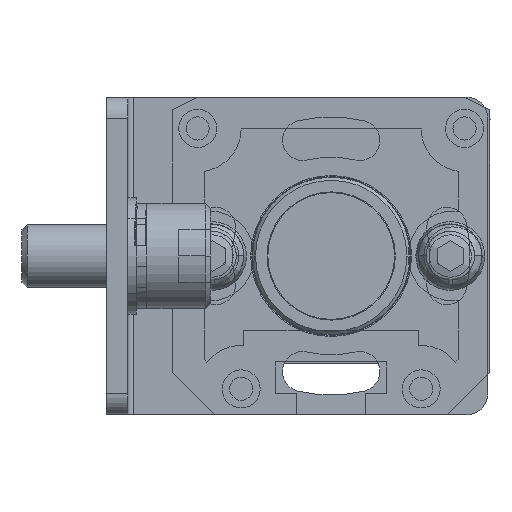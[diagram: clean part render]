
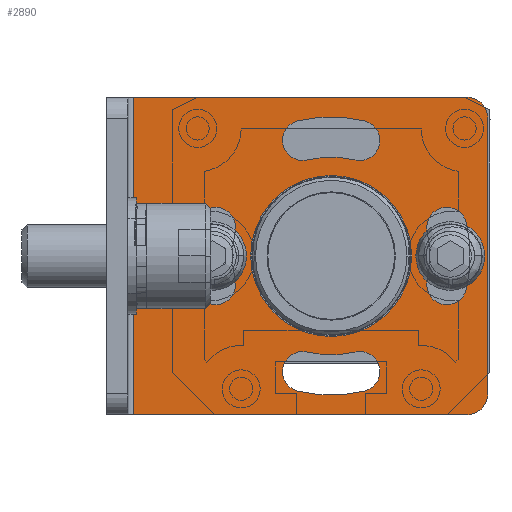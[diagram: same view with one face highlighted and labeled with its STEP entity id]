
A CAD part, front view. The second image highlights one B-rep face of the part: STEP entity #2890.
In plain terms, the highlighted planar face has unit normal (0, -1, 0).
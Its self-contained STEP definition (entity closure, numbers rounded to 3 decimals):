
#692=LINE('',#40684,#1452);
#697=LINE('',#40696,#1457);
#703=LINE('',#40712,#1463);
#707=LINE('',#40736,#1467);
#1452=VECTOR('',#13263,1.);
#1457=VECTOR('',#13272,1.);
#1463=VECTOR('',#13290,1.);
#1467=VECTOR('',#13320,1.);
#1962=PLANE('',#11082);
#2299=FACE_BOUND('',#4309,.T.);
#2300=FACE_BOUND('',#4310,.T.);
#2301=FACE_BOUND('',#4311,.T.);
#2302=FACE_BOUND('',#4312,.T.);
#2303=FACE_BOUND('',#4313,.T.);
#2304=FACE_BOUND('',#4314,.T.);
#2890=ADVANCED_FACE('',(#2299,#2300,#2301,#2302,#2303,#2304),#1962,.T.);
#4309=EDGE_LOOP('',(#6781,#6782,#6783,#6784));
#4310=EDGE_LOOP('',(#6785,#6786,#6787,#6788));
#4311=EDGE_LOOP('',(#6789,#6790,#6791,#6792));
#4312=EDGE_LOOP('',(#6793));
#4313=EDGE_LOOP('',(#6794,#6795,#6796,#6797));
#4314=EDGE_LOOP('',(#6798,#6799,#6800,#6801,#6802,#6803));
#6781=ORIENTED_EDGE('',*,*,#9603,.T.);
#6782=ORIENTED_EDGE('',*,*,#9604,.T.);
#6783=ORIENTED_EDGE('',*,*,#9542,.T.);
#6784=ORIENTED_EDGE('',*,*,#9605,.T.);
#6785=ORIENTED_EDGE('',*,*,#9606,.T.);
#6786=ORIENTED_EDGE('',*,*,#9546,.T.);
#6787=ORIENTED_EDGE('',*,*,#9607,.T.);
#6788=ORIENTED_EDGE('',*,*,#9550,.T.);
#6789=ORIENTED_EDGE('',*,*,#9608,.T.);
#6790=ORIENTED_EDGE('',*,*,#9554,.T.);
#6791=ORIENTED_EDGE('',*,*,#9609,.T.);
#6792=ORIENTED_EDGE('',*,*,#9558,.T.);
#6793=ORIENTED_EDGE('',*,*,#9563,.T.);
#6794=ORIENTED_EDGE('',*,*,#9610,.T.);
#6795=ORIENTED_EDGE('',*,*,#9611,.T.);
#6796=ORIENTED_EDGE('',*,*,#9612,.T.);
#6797=ORIENTED_EDGE('',*,*,#9564,.T.);
#6798=ORIENTED_EDGE('',*,*,#9613,.T.);
#6799=ORIENTED_EDGE('',*,*,#9614,.T.);
#6800=ORIENTED_EDGE('',*,*,#9598,.F.);
#6801=ORIENTED_EDGE('',*,*,#9584,.T.);
#6802=ORIENTED_EDGE('',*,*,#9590,.F.);
#6803=ORIENTED_EDGE('',*,*,#9615,.T.);
#8262=VERTEX_POINT('',#40594);
#8263=VERTEX_POINT('',#40595);
#8266=VERTEX_POINT('',#40603);
#8267=VERTEX_POINT('',#40604);
#8270=VERTEX_POINT('',#40612);
#8271=VERTEX_POINT('',#40613);
#8274=VERTEX_POINT('',#40621);
#8275=VERTEX_POINT('',#40622);
#8278=VERTEX_POINT('',#40630);
#8279=VERTEX_POINT('',#40631);
#8283=VERTEX_POINT('',#40641);
#8284=VERTEX_POINT('',#40644);
#8285=VERTEX_POINT('',#40645);
#8298=VERTEX_POINT('',#40681);
#8299=VERTEX_POINT('',#40683);
#8304=VERTEX_POINT('',#40695);
#8309=VERTEX_POINT('',#40713);
#8312=VERTEX_POINT('',#40723);
#8313=VERTEX_POINT('',#40724);
#8314=VERTEX_POINT('',#40732);
#8315=VERTEX_POINT('',#40734);
#8316=VERTEX_POINT('',#40737);
#8317=VERTEX_POINT('',#40738);
#9542=EDGE_CURVE('',#8262,#8263,#10244,.T.);
#9546=EDGE_CURVE('',#8266,#8267,#10246,.T.);
#9550=EDGE_CURVE('',#8270,#8271,#10248,.T.);
#9554=EDGE_CURVE('',#8274,#8275,#10250,.T.);
#9558=EDGE_CURVE('',#8278,#8279,#10252,.T.);
#9563=EDGE_CURVE('',#8283,#8283,#10255,.T.);
#9564=EDGE_CURVE('',#8284,#8285,#10256,.T.);
#9584=EDGE_CURVE('',#8298,#8299,#692,.T.);
#9590=EDGE_CURVE('',#8304,#8299,#697,.T.);
#9598=EDGE_CURVE('',#8298,#8309,#703,.T.);
#9603=EDGE_CURVE('',#8312,#8313,#10268,.T.);
#9604=EDGE_CURVE('',#8313,#8262,#10269,.T.);
#9605=EDGE_CURVE('',#8263,#8312,#10270,.T.);
#9606=EDGE_CURVE('',#8271,#8266,#10271,.T.);
#9607=EDGE_CURVE('',#8267,#8270,#10272,.T.);
#9608=EDGE_CURVE('',#8279,#8274,#10273,.T.);
#9609=EDGE_CURVE('',#8275,#8278,#10274,.T.);
#9610=EDGE_CURVE('',#8285,#8314,#10275,.T.);
#9611=EDGE_CURVE('',#8314,#8315,#10276,.T.);
#9612=EDGE_CURVE('',#8315,#8284,#10277,.T.);
#9613=EDGE_CURVE('',#8316,#8317,#707,.T.);
#9614=EDGE_CURVE('',#8317,#8309,#10278,.T.);
#9615=EDGE_CURVE('',#8304,#8316,#10279,.T.);
#10244=CIRCLE('',#11028,1.9);
#10246=CIRCLE('',#11031,13.15);
#10248=CIRCLE('',#11034,9.35);
#10250=CIRCLE('',#11037,1.9);
#10252=CIRCLE('',#11040,1.9);
#10255=CIRCLE('',#11044,7.6);
#10256=CIRCLE('',#11046,1.9);
#10268=CIRCLE('',#11070,1.9);
#10269=CIRCLE('',#11071,13.15);
#10270=CIRCLE('',#11072,9.35);
#10271=CIRCLE('',#11073,1.9);
#10272=CIRCLE('',#11074,1.9);
#10273=CIRCLE('',#11075,13.15);
#10274=CIRCLE('',#11076,9.35);
#10275=CIRCLE('',#11077,13.15);
#10276=CIRCLE('',#11078,1.9);
#10277=CIRCLE('',#11079,9.35);
#10278=CIRCLE('',#11080,2.);
#10279=CIRCLE('',#11081,2.);
#11028=AXIS2_PLACEMENT_3D('',#40593,#13179,#13180);
#11031=AXIS2_PLACEMENT_3D('',#40602,#13187,#13188);
#11034=AXIS2_PLACEMENT_3D('',#40611,#13195,#13196);
#11037=AXIS2_PLACEMENT_3D('',#40620,#13203,#13204);
#11040=AXIS2_PLACEMENT_3D('',#40629,#13211,#13212);
#11044=AXIS2_PLACEMENT_3D('',#40640,#13221,#13222);
#11046=AXIS2_PLACEMENT_3D('',#40643,#13225,#13226);
#11070=AXIS2_PLACEMENT_3D('',#40722,#13300,#13301);
#11071=AXIS2_PLACEMENT_3D('',#40725,#13302,#13303);
#11072=AXIS2_PLACEMENT_3D('',#40726,#13304,#13305);
#11073=AXIS2_PLACEMENT_3D('',#40727,#13306,#13307);
#11074=AXIS2_PLACEMENT_3D('',#40728,#13308,#13309);
#11075=AXIS2_PLACEMENT_3D('',#40729,#13310,#13311);
#11076=AXIS2_PLACEMENT_3D('',#40730,#13312,#13313);
#11077=AXIS2_PLACEMENT_3D('',#40731,#13314,#13315);
#11078=AXIS2_PLACEMENT_3D('',#40733,#13316,#13317);
#11079=AXIS2_PLACEMENT_3D('',#40735,#13318,#13319);
#11080=AXIS2_PLACEMENT_3D('',#40739,#13321,#13322);
#11081=AXIS2_PLACEMENT_3D('',#40740,#13323,#13324);
#11082=AXIS2_PLACEMENT_3D('',#40741,#13325,#13326);
#13179=DIRECTION('',(0.,1.,0.));
#13180=DIRECTION('',(0.,0.,1.));
#13187=DIRECTION('',(0.,1.,0.));
#13188=DIRECTION('',(0.,0.,1.));
#13195=DIRECTION('',(0.,-1.,0.));
#13196=DIRECTION('',(0.,0.,1.));
#13203=DIRECTION('',(0.,1.,0.));
#13204=DIRECTION('',(0.,0.,1.));
#13211=DIRECTION('',(0.,1.,0.));
#13212=DIRECTION('',(0.,0.,1.));
#13221=DIRECTION('',(0.,1.,0.));
#13222=DIRECTION('',(0.,0.,1.));
#13225=DIRECTION('',(0.,1.,0.));
#13226=DIRECTION('',(0.,0.,1.));
#13263=DIRECTION('',(0.,0.,-1.));
#13272=DIRECTION('',(-1.,0.,0.));
#13290=DIRECTION('',(1.,0.,0.));
#13300=DIRECTION('',(0.,1.,0.));
#13301=DIRECTION('',(0.,0.,1.));
#13302=DIRECTION('',(0.,1.,0.));
#13303=DIRECTION('',(0.,0.,1.));
#13304=DIRECTION('',(0.,-1.,0.));
#13305=DIRECTION('',(0.,0.,1.));
#13306=DIRECTION('',(0.,1.,0.));
#13307=DIRECTION('',(0.,0.,1.));
#13308=DIRECTION('',(0.,1.,0.));
#13309=DIRECTION('',(0.,0.,1.));
#13310=DIRECTION('',(0.,1.,0.));
#13311=DIRECTION('',(0.,0.,1.));
#13312=DIRECTION('',(0.,-1.,0.));
#13313=DIRECTION('',(0.,0.,1.));
#13314=DIRECTION('',(0.,1.,0.));
#13315=DIRECTION('',(0.,0.,1.));
#13316=DIRECTION('',(0.,1.,0.));
#13317=DIRECTION('',(0.,0.,1.));
#13318=DIRECTION('',(0.,-1.,0.));
#13319=DIRECTION('',(0.,0.,1.));
#13320=DIRECTION('',(0.,0.,1.));
#13321=DIRECTION('',(0.,-1.,0.));
#13322=DIRECTION('',(0.,0.,-1.));
#13323=DIRECTION('',(0.,-1.,0.));
#13324=DIRECTION('',(0.,0.,1.));
#13325=DIRECTION('',(0.,-1.,0.));
#13326=DIRECTION('',(1.,0.,0.));
#40593=CARTESIAN_POINT('',(-110.921,-848.,2.851));
#40594=CARTESIAN_POINT('',(-112.765,-848.,3.307));
#40595=CARTESIAN_POINT('',(-109.077,-848.,2.395));
#40602=CARTESIAN_POINT('',(-100.,-848.,0.15));
#40603=CARTESIAN_POINT('',(-103.157,-848.,12.915));
#40604=CARTESIAN_POINT('',(-96.843,-848.,12.915));
#40611=CARTESIAN_POINT('',(-100.,-848.,0.15));
#40612=CARTESIAN_POINT('',(-97.755,-848.,9.227));
#40613=CARTESIAN_POINT('',(-102.245,-848.,9.227));
#40620=CARTESIAN_POINT('',(-102.701,-848.,-10.771));
#40621=CARTESIAN_POINT('',(-103.157,-848.,-12.615));
#40622=CARTESIAN_POINT('',(-102.245,-848.,-8.927));
#40629=CARTESIAN_POINT('',(-97.299,-848.,-10.771));
#40630=CARTESIAN_POINT('',(-97.755,-848.,-8.927));
#40631=CARTESIAN_POINT('',(-96.843,-848.,-12.615));
#40640=CARTESIAN_POINT('',(-100.,-848.,0.15));
#40641=CARTESIAN_POINT('',(-100.,-848.,7.75));
#40643=CARTESIAN_POINT('',(-89.079,-848.,2.851));
#40644=CARTESIAN_POINT('',(-90.923,-848.,2.395));
#40645=CARTESIAN_POINT('',(-87.235,-848.,3.307));
#40681=CARTESIAN_POINT('',(-118.7,-848.,15.15));
#40683=CARTESIAN_POINT('',(-118.7,-848.,-14.85));
#40684=CARTESIAN_POINT('',(-118.7,-848.,15.15));
#40695=CARTESIAN_POINT('',(-87.2,-848.,-14.85));
#40696=CARTESIAN_POINT('',(-118.7,-848.,-14.85));
#40712=CARTESIAN_POINT('',(-118.7,-848.,15.15));
#40713=CARTESIAN_POINT('',(-87.2,-848.,15.15));
#40722=CARTESIAN_POINT('',(-110.921,-848.,-2.551));
#40723=CARTESIAN_POINT('',(-109.077,-848.,-2.095));
#40724=CARTESIAN_POINT('',(-112.765,-848.,-3.007));
#40725=CARTESIAN_POINT('',(-100.,-848.,0.15));
#40726=CARTESIAN_POINT('',(-100.,-848.,0.15));
#40727=CARTESIAN_POINT('',(-102.701,-848.,11.071));
#40728=CARTESIAN_POINT('',(-97.299,-848.,11.071));
#40729=CARTESIAN_POINT('',(-100.,-848.,0.15));
#40730=CARTESIAN_POINT('',(-100.,-848.,0.15));
#40731=CARTESIAN_POINT('',(-100.,-848.,0.15));
#40732=CARTESIAN_POINT('',(-87.235,-848.,-3.007));
#40733=CARTESIAN_POINT('',(-89.079,-848.,-2.551));
#40734=CARTESIAN_POINT('',(-90.923,-848.,-2.095));
#40735=CARTESIAN_POINT('',(-100.,-848.,0.15));
#40736=CARTESIAN_POINT('',(-85.2,-848.,15.15));
#40737=CARTESIAN_POINT('',(-85.2,-848.,-12.85));
#40738=CARTESIAN_POINT('',(-85.2,-848.,13.15));
#40739=CARTESIAN_POINT('',(-87.2,-848.,13.15));
#40740=CARTESIAN_POINT('',(-87.2,-848.,-12.85));
#40741=CARTESIAN_POINT('',(-85.2,-848.,15.15));
